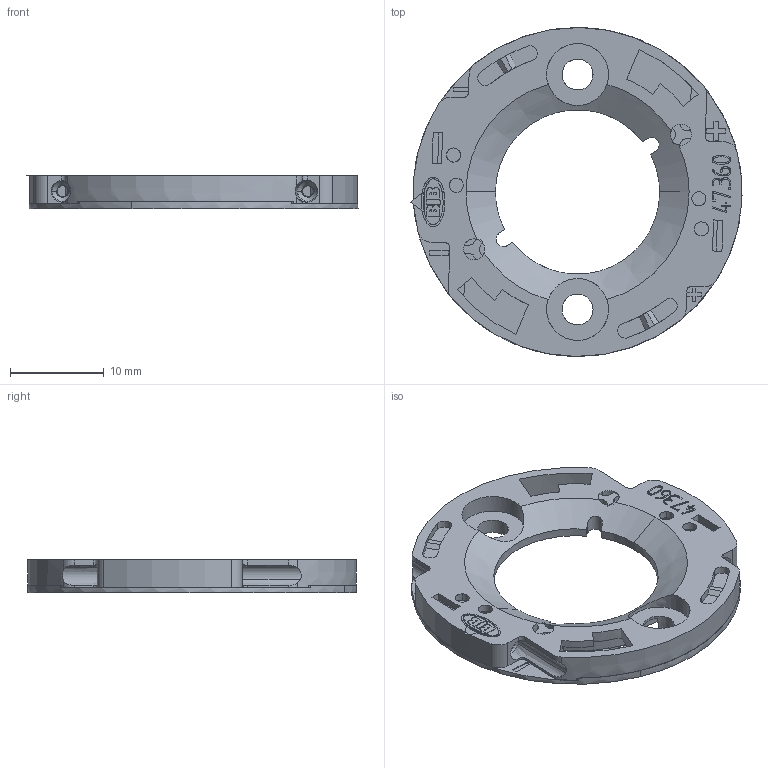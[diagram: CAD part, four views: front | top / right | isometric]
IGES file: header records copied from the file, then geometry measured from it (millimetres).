
Global section: file name: C:\CoreTechnologie\3D-in\01ZYR03Y08.igs; native system: CT CoreTechnologie 3D Evolution; preprocessor: 2006; date: 1180305.100716; units: millimetre
Bounding box: 35.32 x 35 x 3.55 mm (x, y, z)
Volume: 1442.9 mm3; surface area: 3723 mm2
Topology: 4 solids, 4 shells, 568 faces, 1627 edges, 1090 vertices
Faces by surface type: plane 337, revolution 197, bspline 34
